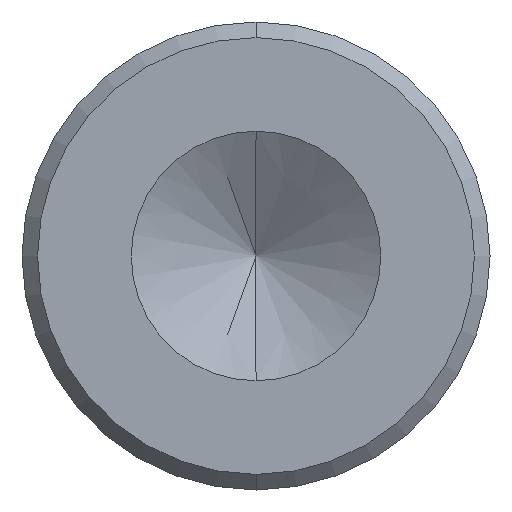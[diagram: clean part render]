
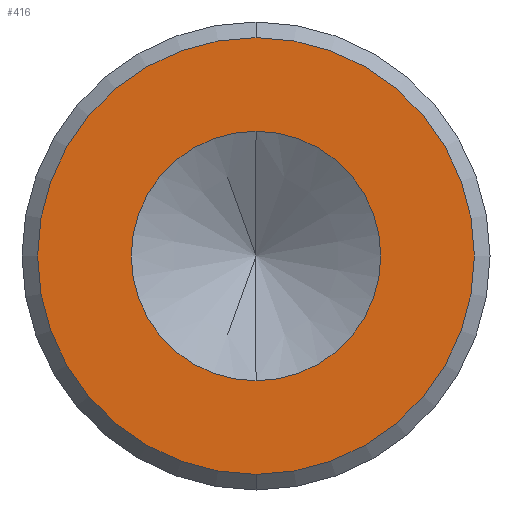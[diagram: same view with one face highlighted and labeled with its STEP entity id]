
A CAD part, front view. The second image highlights one B-rep face of the part: STEP entity #416.
In plain terms, the highlighted planar face has unit normal (0, -1, 0).
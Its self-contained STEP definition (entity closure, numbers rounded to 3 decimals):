
#10 = DIRECTION ( 'NONE',  ( 0., -1., 0. ) ) ;
#11 = CARTESIAN_POINT ( 'NONE',  ( 0., 0., 0. ) ) ;
#19 = VERTEX_POINT ( 'NONE', #384 ) ;
#24 = DIRECTION ( 'NONE',  ( 0., 0., 1. ) ) ;
#35 = AXIS2_PLACEMENT_3D ( 'NONE', #341, #10, #90 ) ;
#37 = VERTEX_POINT ( 'NONE', #351 ) ;
#69 = CARTESIAN_POINT ( 'NONE',  ( 0., 0., -1.4 ) ) ;
#70 = EDGE_CURVE ( 'NONE', #98, #37, #238, .T. ) ;
#75 = ORIENTED_EDGE ( 'NONE', *, *, #70, .T. ) ;
#77 = DIRECTION ( 'NONE',  ( 0., 0., -1. ) ) ;
#90 = DIRECTION ( 'NONE',  ( 0., 0., 1. ) ) ;
#96 = DIRECTION ( 'NONE',  ( 0., -1., 0. ) ) ;
#98 = VERTEX_POINT ( 'NONE', #69 ) ;
#135 = FACE_BOUND ( 'NONE', #253, .T. ) ;
#154 = DIRECTION ( 'NONE',  ( 0., 0., -1. ) ) ;
#157 = CARTESIAN_POINT ( 'NONE',  ( 0., 0., 0. ) ) ;
#189 = DIRECTION ( 'NONE',  ( 0., -1., 0. ) ) ;
#200 = PLANE ( 'NONE',  #407 ) ;
#205 = ORIENTED_EDGE ( 'NONE', *, *, #333, .F. ) ;
#234 = AXIS2_PLACEMENT_3D ( 'NONE', #335, #331, #77 ) ;
#238 = CIRCLE ( 'NONE', #310, 1.4 ) ;
#253 = EDGE_LOOP ( 'NONE', ( #259, #205 ) ) ;
#259 = ORIENTED_EDGE ( 'NONE', *, *, #262, .F. ) ;
#262 = EDGE_CURVE ( 'NONE', #19, #388, #453, .T. ) ;
#267 = DIRECTION ( 'NONE',  ( 0., 1., 0. ) ) ;
#309 = ORIENTED_EDGE ( 'NONE', *, *, #393, .T. ) ;
#310 = AXIS2_PLACEMENT_3D ( 'NONE', #421, #96, #24 ) ;
#317 = AXIS2_PLACEMENT_3D ( 'NONE', #157, #189, #154 ) ;
#327 = FACE_OUTER_BOUND ( 'NONE', #382, .T. ) ;
#331 = DIRECTION ( 'NONE',  ( 0., -1., 0. ) ) ;
#333 = EDGE_CURVE ( 'NONE', #388, #19, #380, .T. ) ;
#334 = CIRCLE ( 'NONE', #35, 1.4 ) ;
#335 = CARTESIAN_POINT ( 'NONE',  ( 0., 0., 0. ) ) ;
#338 = DIRECTION ( 'NONE',  ( 0., 0., 1. ) ) ;
#341 = CARTESIAN_POINT ( 'NONE',  ( 0., 0., 0. ) ) ;
#351 = CARTESIAN_POINT ( 'NONE',  ( 0., 0., 1.4 ) ) ;
#380 = CIRCLE ( 'NONE', #234, 0.8 ) ;
#382 = EDGE_LOOP ( 'NONE', ( #309, #75 ) ) ;
#384 = CARTESIAN_POINT ( 'NONE',  ( 0., 0., -0.8 ) ) ;
#388 = VERTEX_POINT ( 'NONE', #447 ) ;
#393 = EDGE_CURVE ( 'NONE', #37, #98, #334, .T. ) ;
#407 = AXIS2_PLACEMENT_3D ( 'NONE', #11, #267, #338 ) ;
#416 = ADVANCED_FACE ( 'NONE', ( #135, #327 ), #200, .F. ) ;
#421 = CARTESIAN_POINT ( 'NONE',  ( 0., 0., 0. ) ) ;
#447 = CARTESIAN_POINT ( 'NONE',  ( 0., 0., 0.8 ) ) ;
#453 = CIRCLE ( 'NONE', #317, 0.8 ) ;
